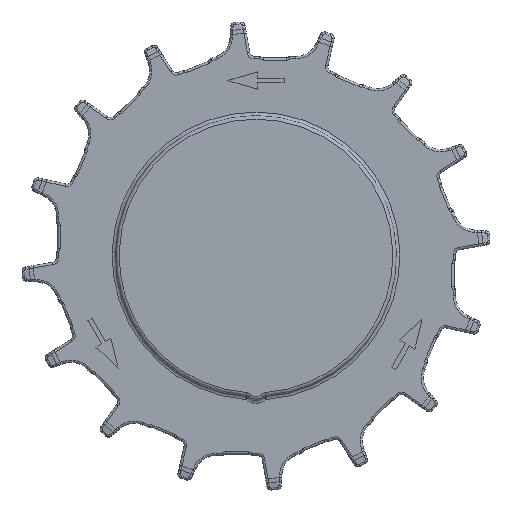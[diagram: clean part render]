
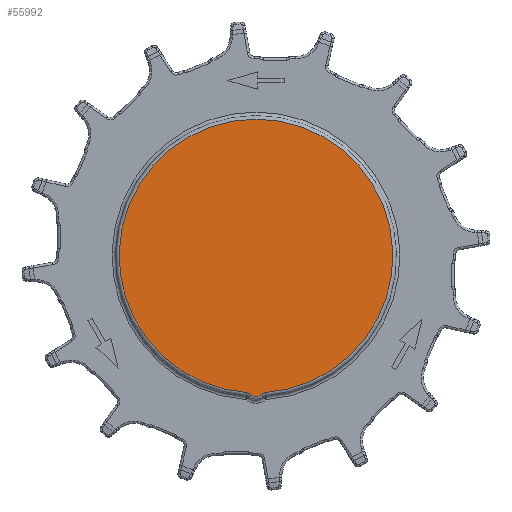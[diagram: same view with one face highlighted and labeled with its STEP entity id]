
A CAD part, front view. The second image highlights one B-rep face of the part: STEP entity #55992.
In plain terms, the highlighted planar face has unit normal (0, -1, 0).
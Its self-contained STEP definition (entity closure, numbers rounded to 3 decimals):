
#18802=CARTESIAN_POINT('',(0.,-19.5,0.));
#18803=DIRECTION('',(0.,-1.,0.));
#18804=DIRECTION('',(0.07,0.,-0.998));
#18805=AXIS2_PLACEMENT_3D('',#18802,#18803,#18804);
#18807=CARTESIAN_POINT('',(4.331,-19.5,-61.347));
#18808=DIRECTION('',(0.,-1.,0.));
#18809=DIRECTION('',(-0.07,0.,0.998));
#18810=AXIS2_PLACEMENT_3D('',#18807,#18808,#18809);
#18812=CARTESIAN_POINT('',(0.,-19.5,-56.5));
#18813=DIRECTION('',(0.,-1.,0.));
#18814=DIRECTION('',(-0.666,0.,-0.746));
#18815=AXIS2_PLACEMENT_3D('',#18812,#18813,#18814);
#18817=CARTESIAN_POINT('',(-4.331,-19.5,-61.347));
#18818=DIRECTION('',(0.,-1.,0.));
#18819=DIRECTION('',(0.666,0.,0.746));
#18820=AXIS2_PLACEMENT_3D('',#18817,#18818,#18819);
#24566=CARTESIAN_POINT('',(4.12,-19.5,-58.355));
#24567=CARTESIAN_POINT('',(-4.12,-19.5,-58.355));
#24568=VERTEX_POINT('',#24566);
#24569=VERTEX_POINT('',#24567);
#24582=CARTESIAN_POINT('',(-2.332,-19.5,-59.11));
#24583=CARTESIAN_POINT('',(2.332,-19.5,-59.11));
#24584=VERTEX_POINT('',#24582);
#24585=VERTEX_POINT('',#24583);
#55979=CARTESIAN_POINT('',(0.,-19.5,0.));
#55980=DIRECTION('',(0.,1.,0.));
#55981=DIRECTION('',(1.,0.,0.));
#55982=AXIS2_PLACEMENT_3D('',#55979,#55980,#55981);
#55983=PLANE('',#55982);
#55984=ORIENTED_EDGE('',*,*,#55957,.F.);
#55985=ORIENTED_EDGE('',*,*,#55969,.T.);
#55987=ORIENTED_EDGE('',*,*,#55986,.F.);
#55989=ORIENTED_EDGE('',*,*,#55988,.T.);
#55990=EDGE_LOOP('',(#55984,#55985,#55987,#55989));
#55991=FACE_OUTER_BOUND('',#55990,.F.);
#18806=CIRCLE('',#18805,58.5);
#18811=CIRCLE('',#18810,3.);
#18816=CIRCLE('',#18815,3.5);
#18821=CIRCLE('',#18820,3.);
#55957=EDGE_CURVE('',#24568,#24569,#18806,.T.);
#55969=EDGE_CURVE('',#24568,#24585,#18811,.T.);
#55986=EDGE_CURVE('',#24584,#24585,#18816,.T.);
#55988=EDGE_CURVE('',#24584,#24569,#18821,.T.);
#55992=ADVANCED_FACE('',(#55991),#55983,.F.);
